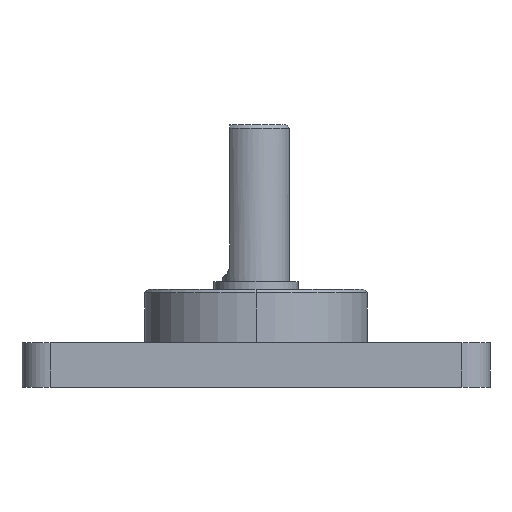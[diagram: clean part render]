
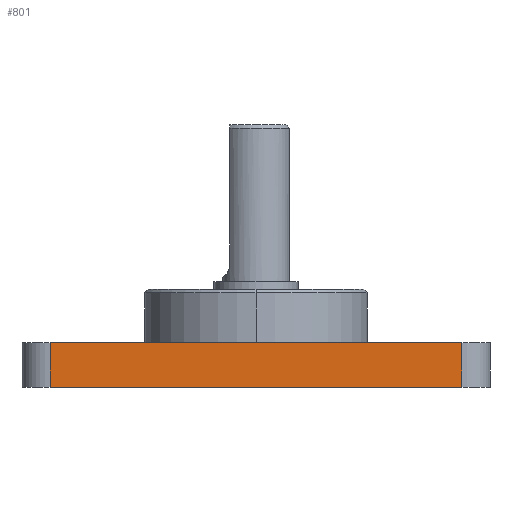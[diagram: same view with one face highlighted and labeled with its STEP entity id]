
A CAD part, left-side view. The second image highlights one B-rep face of the part: STEP entity #801.
In plain terms, the highlighted planar face has unit normal (-1, 0, 0).
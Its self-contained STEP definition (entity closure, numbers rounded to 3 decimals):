
#431 = CARTESIAN_POINT ( 'NONE',  ( -33.35, 29.35, 0. ) ) ;
#801 = ADVANCED_FACE ( 'NONE', ( #8429 ), #9972, .F. ) ;
#909 = VERTEX_POINT ( 'NONE', #9865 ) ;
#968 = DIRECTION ( 'NONE',  ( 0., -1., 0. ) ) ;
#1505 = VECTOR ( 'NONE', #8026, 1000. ) ;
#1645 = DIRECTION ( 'NONE',  ( 0., 0., -1. ) ) ;
#1997 = CARTESIAN_POINT ( 'NONE',  ( -33.35, 29.35, 6.35 ) ) ;
#2524 = CARTESIAN_POINT ( 'NONE',  ( -33.35, 29.35, 6.35 ) ) ;
#3406 = ORIENTED_EDGE ( 'NONE', *, *, #6852, .F. ) ;
#3448 = EDGE_CURVE ( 'NONE', #11690, #909, #13381, .T. ) ;
#3691 = VECTOR ( 'NONE', #968, 1000. ) ;
#4176 = LINE ( 'NONE', #11876, #3691 ) ;
#4605 = LINE ( 'NONE', #2524, #12903 ) ;
#4709 = ORIENTED_EDGE ( 'NONE', *, *, #16892, .T. ) ;
#5867 = EDGE_CURVE ( 'NONE', #11379, #17341, #4605, .T. ) ;
#6852 = EDGE_CURVE ( 'NONE', #11379, #11690, #4176, .T. ) ;
#6911 = DIRECTION ( 'NONE',  ( 0., 1., 0. ) ) ;
#8026 = DIRECTION ( 'NONE',  ( 0., -1., 0. ) ) ;
#8201 = CARTESIAN_POINT ( 'NONE',  ( -33.35, 29.35, 6.35 ) ) ;
#8429 = FACE_OUTER_BOUND ( 'NONE', #14249, .T. ) ;
#8659 = AXIS2_PLACEMENT_3D ( 'NONE', #1997, #16162, #6911 ) ;
#9823 = LINE ( 'NONE', #18921, #1505 ) ;
#9865 = CARTESIAN_POINT ( 'NONE',  ( -33.35, -29.35, 0. ) ) ;
#9972 = PLANE ( 'NONE',  #8659 ) ;
#11379 = VERTEX_POINT ( 'NONE', #8201 ) ;
#11690 = VERTEX_POINT ( 'NONE', #14946 ) ;
#11743 = ORIENTED_EDGE ( 'NONE', *, *, #3448, .F. ) ;
#11876 = CARTESIAN_POINT ( 'NONE',  ( -33.35, 29.35, 6.35 ) ) ;
#12903 = VECTOR ( 'NONE', #13433, 1000. ) ;
#13381 = LINE ( 'NONE', #19010, #17544 ) ;
#13433 = DIRECTION ( 'NONE',  ( 0., 0., -1. ) ) ;
#14249 = EDGE_LOOP ( 'NONE', ( #4709, #11743, #3406, #20199 ) ) ;
#14946 = CARTESIAN_POINT ( 'NONE',  ( -33.35, -29.35, 6.35 ) ) ;
#16162 = DIRECTION ( 'NONE',  ( 1., 0., 0. ) ) ;
#16892 = EDGE_CURVE ( 'NONE', #17341, #909, #9823, .T. ) ;
#17341 = VERTEX_POINT ( 'NONE', #431 ) ;
#17544 = VECTOR ( 'NONE', #1645, 1000. ) ;
#18921 = CARTESIAN_POINT ( 'NONE',  ( -33.35, 29.35, 0. ) ) ;
#19010 = CARTESIAN_POINT ( 'NONE',  ( -33.35, -29.35, 6.35 ) ) ;
#20199 = ORIENTED_EDGE ( 'NONE', *, *, #5867, .T. ) ;
